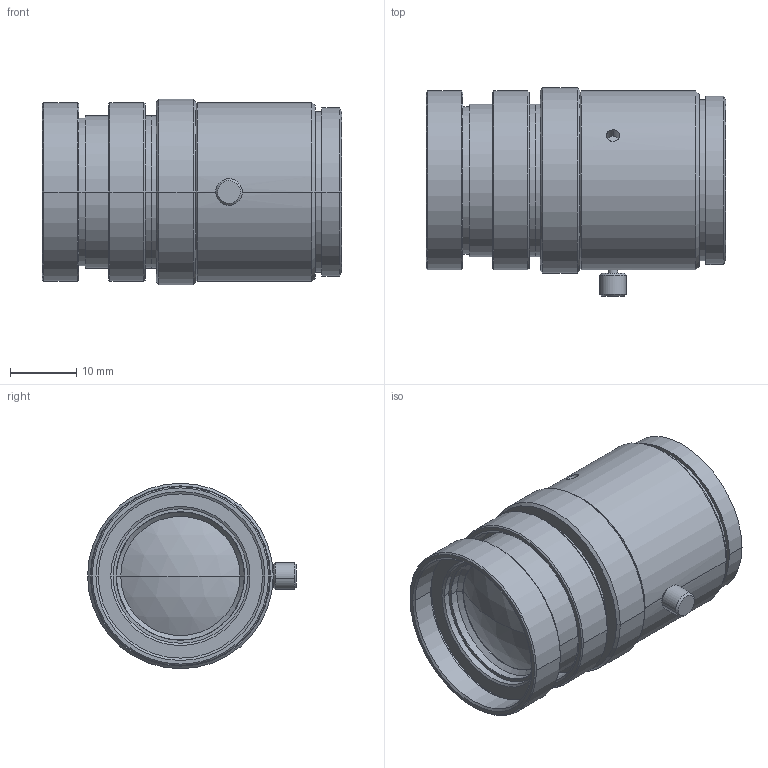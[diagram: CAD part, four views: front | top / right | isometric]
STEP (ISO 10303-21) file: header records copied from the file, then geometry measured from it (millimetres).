
FILE_DESCRIPTION (( 'STEP AP214' ), '1' );
FILE_NAME ('M3580-MPW2-R.STEP', '2021-04-19T23:36:54', ( '' ), ( '' ), 'SwSTEP 2.0', 'SolidWorks 2021', '' );
FILE_SCHEMA (( 'AUTOMOTIVE_DESIGN' ));
Length unit declared in the file: millimetre
Products named in the file (4): M3580-MPW2-R_MechanicalLimit; M3580-MPW2-R; M3580-MPW2-R_Infinity; ロックビス
Assembly tree (3 placements, depth 2):
  M3580-MPW2-R
    M3580-MPW2-R_Infinity
    M3580-MPW2-R_MechanicalLimit
    ロックビス
Bounding box: 45.17 x 31.5 x 28 mm (x, y, z)
Volume: 30502.8 mm3; surface area: 13293.5 mm2
Topology: 3 solids, 3 shells, 208 faces, 412 edges, 246 vertices
Faces by surface type: cylinder 86, cone 74, plane 40, sphere 8
Entity records: 7778 total; most frequent: DIRECTION 1066, CARTESIAN_POINT 1064, ORIENTED_EDGE 824, AXIS2_PLACEMENT_3D 452, EDGE_CURVE 412, VERTEX_POINT 246, EDGE_LOOP 244, CIRCLE 238
